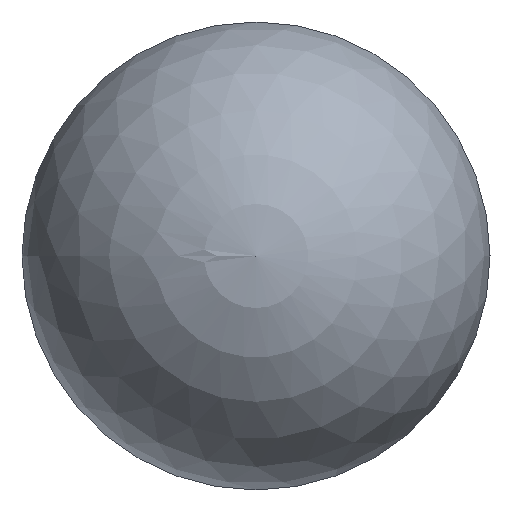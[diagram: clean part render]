
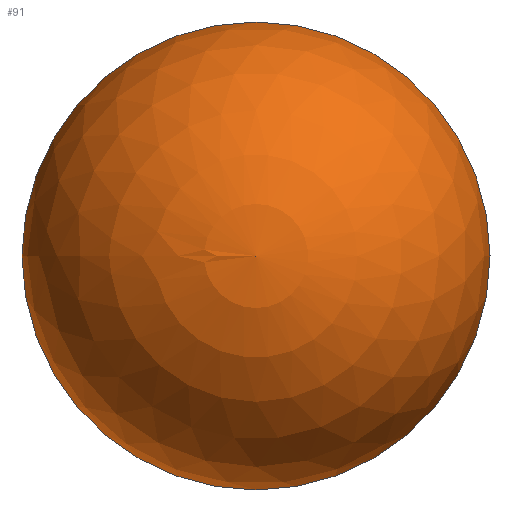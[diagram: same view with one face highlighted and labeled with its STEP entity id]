
A CAD part, left-side view. The second image highlights one B-rep face of the part: STEP entity #91.
In plain terms, the highlighted spherical face has radius 3.25 mm.
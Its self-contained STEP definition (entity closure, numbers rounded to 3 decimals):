
#27=ORIENTED_EDGE('',*,*,#41,.F.);
#41=EDGE_CURVE('',#48,#48,#55,.T.);
#48=VERTEX_POINT('',#162);
#55=CIRCLE('',#113,3.25);
#62=EDGE_LOOP('',(#27));
#76=FACE_BOUND('',#62,.T.);
#90=SPHERICAL_SURFACE('',#112,3.25);
#91=ADVANCED_FACE('',(#76),#90,.T.);
#112=AXIS2_PLACEMENT_3D('',#160,#129,#130);
#113=AXIS2_PLACEMENT_3D('',#161,#131,#132);
#129=DIRECTION('',(1.,0.,0.));
#130=DIRECTION('',(0.,1.,0.));
#131=DIRECTION('',(1.,0.,0.));
#132=DIRECTION('',(0.,1.,0.));
#160=CARTESIAN_POINT('',(3.25,0.,0.));
#161=CARTESIAN_POINT('',(3.25,0.,0.));
#162=CARTESIAN_POINT('',(3.25,3.25,0.));
